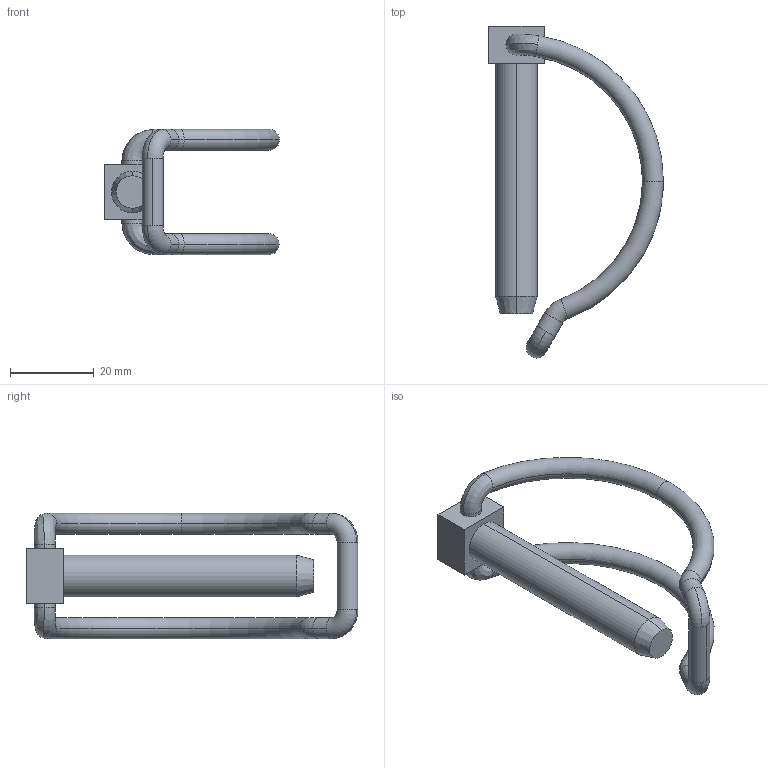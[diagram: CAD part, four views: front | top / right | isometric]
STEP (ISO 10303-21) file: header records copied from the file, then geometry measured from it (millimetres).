
FILE_DESCRIPTION (( 'STEP AP203' ), '1' );
FILE_NAME ('33320.W0103.step', '2025-02-04T13:41:27', ( '' ), ( '' ), 'SwSTEP 2.0', 'SolidWorks 2019', '' );
FILE_SCHEMA (( 'CONFIG_CONTROL_DESIGN' ));
Length unit declared in the file: millimetre
Products named in the file (3): part1_33320.W0103; 33320.W0103; Part5_33320.W0103
Assembly tree (2 placements, depth 2):
  33320.W0103
    part1_33320.W0103
    Part5_33320.W0103
Bounding box: 41.86 x 79.47 x 30 mm (x, y, z)
Volume: 10714.2 mm3; surface area: 6682.9 mm2
Topology: 2 solids, 2 shells, 43 faces, 98 edges, 60 vertices
Faces by surface type: cylinder 14, torus 14, plane 9, bspline 4, cone 2
Entity records: 1827 total; most frequent: CARTESIAN_POINT 518, DIRECTION 248, ORIENTED_EDGE 196, AXIS2_PLACEMENT_3D 110, EDGE_CURVE 98, CIRCLE 66, VERTEX_POINT 60, EDGE_LOOP 46
